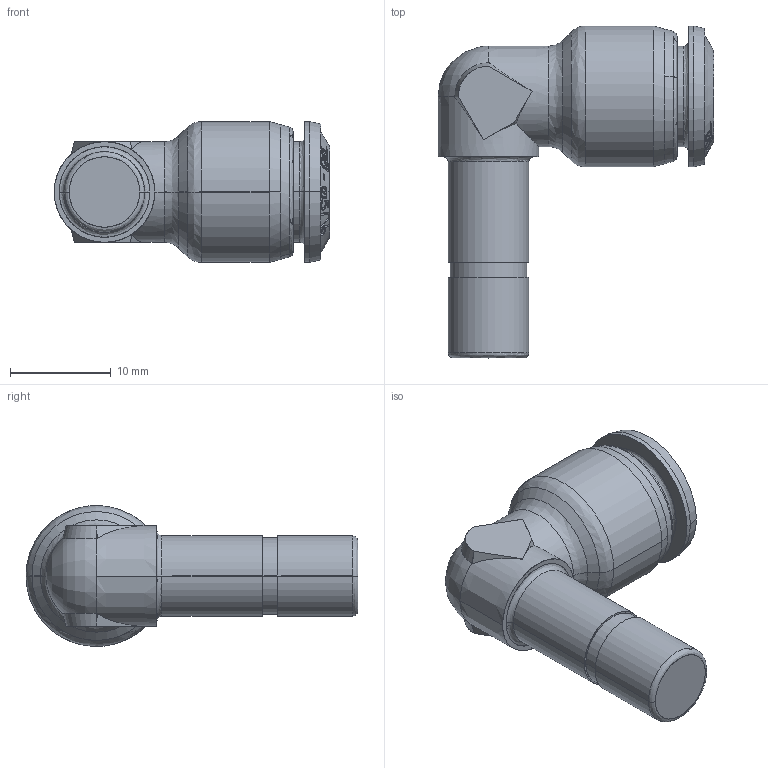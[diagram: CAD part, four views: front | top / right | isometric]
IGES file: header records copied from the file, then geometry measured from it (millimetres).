
Start section: SolidWorks IGES file using analytic representation for surfaces
Global section: file name: K:\Disegni Esecutivi\ALPHA TECHNOLOGIES\85000\Assiemi-85000\85140\IGES\8514000007A.IGS; native system: SolidWorks 2016; preprocessor: SolidWorks 2016; author: cad06; date: 200519.115142; units: millimetre
Bounding box: 27.4 x 33 x 14 mm (x, y, z)
Surface area: 2322.5 mm2 (no closed solid volume)
Topology: 0 solids, 0 shells, 184 faces, 1935 edges, 1934 vertices
Faces by surface type: bspline 131, revolution 53
